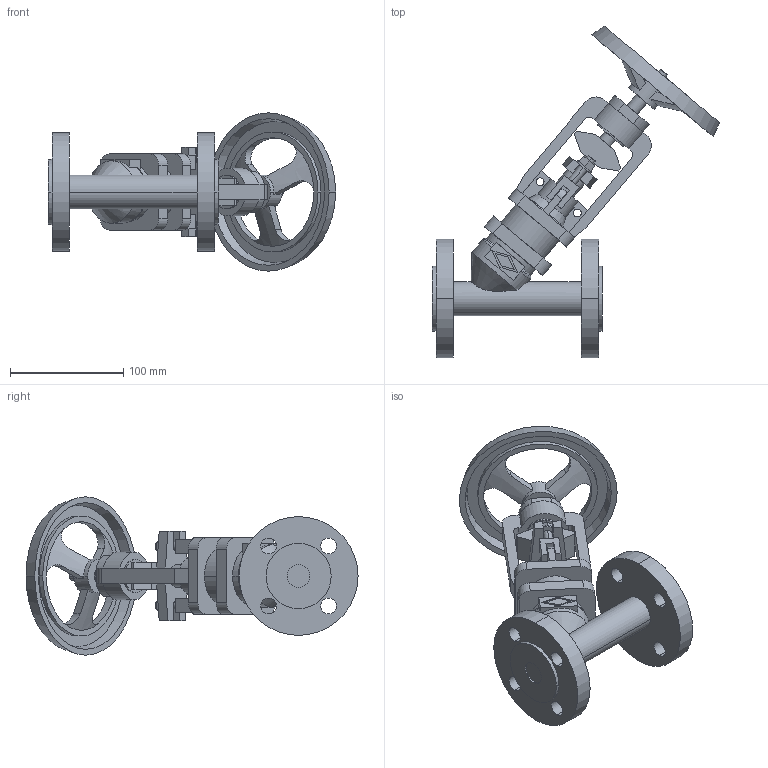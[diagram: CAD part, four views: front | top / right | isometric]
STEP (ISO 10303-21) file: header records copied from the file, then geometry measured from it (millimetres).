
FILE_DESCRIPTION(('OneSpaceDesigner STEP Export'),'2;1');
FILE_NAME('c000004402.stp','2010-05-10T 9:27:40',(''),(''),'OneSpace Designer STEP processor for AP214 (Solid Model)','OneSpace Modeling 15.50B 03-Nov-2007 (C) CoCreate Software GmbH','');
FILE_SCHEMA(('AUTOMOTIVE_DESIGN { 1 0 10303 214 1 1 1 1 }'));
Length unit declared in the file: millimetre
Products named in the file (1): 1
Bounding box: 253.74 x 293.43 x 140 mm (x, y, z)
Volume: 802604.8 mm3; surface area: 159289.6 mm2
Topology: 1 solids, 1 shells, 288 faces, 748 edges, 488 vertices
Faces by surface type: plane 149, cylinder 105, cone 23, torus 11
Entity records: 10964 total; most frequent: CARTESIAN_POINT 1952, ORIENTED_EDGE 1496, DIRECTION 1239, EDGE_CURVE 748, VERTEX_POINT 488, VECTOR 437, LINE 437, AXIS2_PLACEMENT_3D 401
